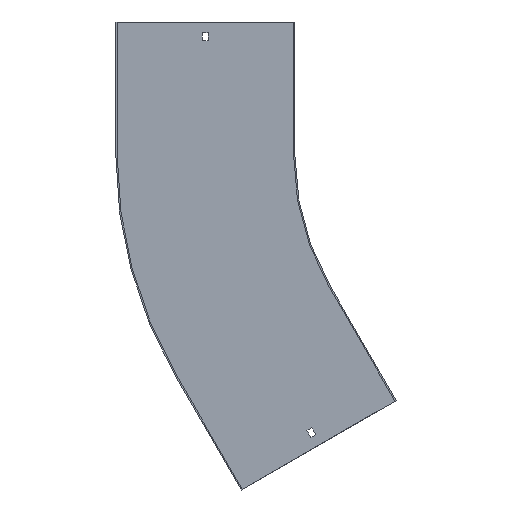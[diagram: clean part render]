
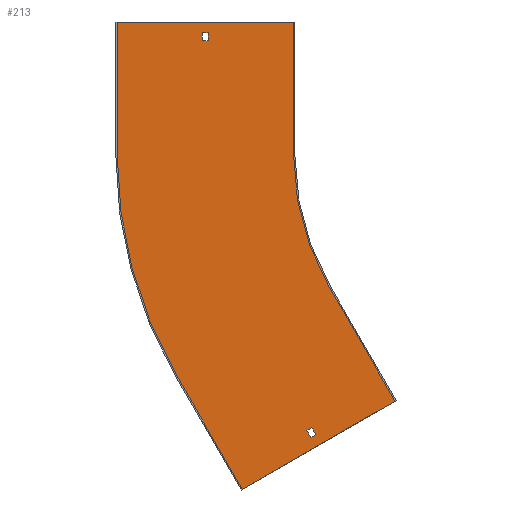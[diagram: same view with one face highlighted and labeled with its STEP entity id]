
A CAD part, front view. The second image highlights one B-rep face of the part: STEP entity #213.
In plain terms, the highlighted planar face has unit normal (0, -1, 0).
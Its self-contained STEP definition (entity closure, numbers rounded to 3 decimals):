
#2 = DIRECTION ( 'NONE',  ( 1., 0., 0. ) ) ;
#12 = ORIENTED_EDGE ( 'NONE', *, *, #810, .F. ) ;
#19 = VERTEX_POINT ( 'NONE', #501 ) ;
#20 = CARTESIAN_POINT ( 'NONE',  ( -279.096, -1.5, -310.092 ) ) ;
#41 = EDGE_CURVE ( 'NONE', #242, #82, #654, .T. ) ;
#43 = CARTESIAN_POINT ( 'NONE',  ( -433.013, -1.5, -250. ) ) ;
#46 = VERTEX_POINT ( 'NONE', #781 ) ;
#48 = EDGE_CURVE ( 'NONE', #82, #584, #228, .T. ) ;
#51 = DIRECTION ( 'NONE',  ( 0., 0., 1. ) ) ;
#53 = VECTOR ( 'NONE', #172, 1000. ) ;
#68 = DIRECTION ( 'NONE',  ( 0.5, 0., -0.866 ) ) ;
#79 = EDGE_CURVE ( 'NONE', #252, #816, #761, .T. ) ;
#82 = VERTEX_POINT ( 'NONE', #736 ) ;
#93 = CARTESIAN_POINT ( 'NONE',  ( -300., -1.5, 150. ) ) ;
#95 = CARTESIAN_POINT ( 'NONE',  ( -349.225, -1.5, -201.625 ) ) ;
#105 = CIRCLE ( 'NONE', #538, 300. ) ;
#107 = ORIENTED_EDGE ( 'NONE', *, *, #610, .F. ) ;
#110 = ORIENTED_EDGE ( 'NONE', *, *, #457, .F. ) ;
#114 = EDGE_LOOP ( 'NONE', ( #237, #154, #107, #436 ) ) ;
#124 = CARTESIAN_POINT ( 'NONE',  ( 0., -1.5, 0. ) ) ;
#140 = CARTESIAN_POINT ( 'NONE',  ( -300., -1.5, 0. ) ) ;
#145 = VECTOR ( 'NONE', #68, 1000. ) ;
#147 = LINE ( 'NONE', #630, #53 ) ;
#152 = FACE_BOUND ( 'NONE', #289, .T. ) ;
#154 = ORIENTED_EDGE ( 'NONE', *, *, #420, .F. ) ;
#158 = DIRECTION ( 'NONE',  ( 0., 0., -1. ) ) ;
#161 = VERTEX_POINT ( 'NONE', #140 ) ;
#163 = VERTEX_POINT ( 'NONE', #732 ) ;
#165 = DIRECTION ( 'NONE',  ( 0., 0., -1. ) ) ;
#168 = VECTOR ( 'NONE', #320, 1000. ) ;
#172 = DIRECTION ( 'NONE',  ( 1., 0., 0. ) ) ;
#174 = VECTOR ( 'NONE', #158, 1000. ) ;
#175 = VECTOR ( 'NONE', #726, 1000. ) ;
#184 = CARTESIAN_POINT ( 'NONE',  ( -259.808, -1.5, -150. ) ) ;
#197 = CARTESIAN_POINT ( 'NONE',  ( 0., -1.5, 129. ) ) ;
#201 = VERTEX_POINT ( 'NONE', #537 ) ;
#213 = ADVANCED_FACE ( 'NONE', ( #421, #611, #152 ), #416, .T. ) ;
#214 = CARTESIAN_POINT ( 'NONE',  ( -300., -1.5, 150. ) ) ;
#227 = ORIENTED_EDGE ( 'NONE', *, *, #41, .F. ) ;
#228 = LINE ( 'NONE', #633, #168 ) ;
#234 = EDGE_CURVE ( 'NONE', #695, #252, #826, .T. ) ;
#237 = ORIENTED_EDGE ( 'NONE', *, *, #234, .F. ) ;
#242 = VERTEX_POINT ( 'NONE', #348 ) ;
#252 = VERTEX_POINT ( 'NONE', #20 ) ;
#271 = EDGE_CURVE ( 'NONE', #627, #19, #147, .T. ) ;
#285 = CARTESIAN_POINT ( 'NONE',  ( -343.596, -1.5, -198.375 ) ) ;
#289 = EDGE_LOOP ( 'NONE', ( #343, #351, #314, #717 ) ) ;
#290 = VECTOR ( 'NONE', #621, 1000. ) ;
#303 = CARTESIAN_POINT ( 'NONE',  ( 0., -1.5, 0. ) ) ;
#305 = EDGE_CURVE ( 'NONE', #19, #201, #497, .T. ) ;
#306 = CIRCLE ( 'NONE', #653, 500. ) ;
#314 = ORIENTED_EDGE ( 'NONE', *, *, #337, .T. ) ;
#320 = DIRECTION ( 'NONE',  ( -0.5, 0., 0.866 ) ) ;
#327 = CARTESIAN_POINT ( 'NONE',  ( -183.509, -1.5, -279.154 ) ) ;
#330 = DIRECTION ( 'NONE',  ( -1., 0., 0. ) ) ;
#337 = EDGE_CURVE ( 'NONE', #201, #163, #456, .T. ) ;
#343 = ORIENTED_EDGE ( 'NONE', *, *, #271, .T. ) ;
#346 = VERTEX_POINT ( 'NONE', #521 ) ;
#348 = CARTESIAN_POINT ( 'NONE',  ( -184.808, -1.5, -279.904 ) ) ;
#351 = ORIENTED_EDGE ( 'NONE', *, *, #305, .T. ) ;
#364 = EDGE_CURVE ( 'NONE', #163, #627, #525, .T. ) ;
#365 = ORIENTED_EDGE ( 'NONE', *, *, #425, .F. ) ;
#366 = DIRECTION ( 'NONE',  ( 0.5, 0., -0.866 ) ) ;
#373 = DIRECTION ( 'NONE',  ( -0.866, 0., -0.5 ) ) ;
#389 = CARTESIAN_POINT ( 'NONE',  ( -500., -1.5, 0. ) ) ;
#393 = EDGE_CURVE ( 'NONE', #427, #242, #517, .T. ) ;
#394 = DIRECTION ( 'NONE',  ( 0., 1., 0. ) ) ;
#416 = PLANE ( 'NONE',  #444 ) ;
#420 = EDGE_CURVE ( 'NONE', #818, #695, #647, .T. ) ;
#421 = FACE_BOUND ( 'NONE', #114, .T. ) ;
#425 = EDGE_CURVE ( 'NONE', #584, #346, #306, .T. ) ;
#427 = VERTEX_POINT ( 'NONE', #184 ) ;
#429 = CARTESIAN_POINT ( 'NONE',  ( 64.5, -1.5, -111.717 ) ) ;
#436 = ORIENTED_EDGE ( 'NONE', *, *, #79, .F. ) ;
#444 = AXIS2_PLACEMENT_3D ( 'NONE', #684, #560, #688 ) ;
#451 = CARTESIAN_POINT ( 'NONE',  ( -259.808, -1.5, -150. ) ) ;
#456 = LINE ( 'NONE', #197, #652 ) ;
#457 = EDGE_CURVE ( 'NONE', #46, #518, #738, .T. ) ;
#465 = DIRECTION ( 'NONE',  ( 0., 0., 1. ) ) ;
#497 = LINE ( 'NONE', #762, #174 ) ;
#498 = VECTOR ( 'NONE', #373, 1000. ) ;
#501 = CARTESIAN_POINT ( 'NONE',  ( -396.75, -1.5, 138. ) ) ;
#517 = LINE ( 'NONE', #451, #145 ) ;
#518 = VERTEX_POINT ( 'NONE', #214 ) ;
#521 = CARTESIAN_POINT ( 'NONE',  ( -500., -1.5, 0. ) ) ;
#525 = LINE ( 'NONE', #731, #720 ) ;
#537 = CARTESIAN_POINT ( 'NONE',  ( -396.75, -1.5, 129. ) ) ;
#538 = AXIS2_PLACEMENT_3D ( 'NONE', #303, #551, #165 ) ;
#551 = DIRECTION ( 'NONE',  ( 0., -1., 0. ) ) ;
#560 = DIRECTION ( 'NONE',  ( 0., -1., 0. ) ) ;
#562 = ORIENTED_EDGE ( 'NONE', *, *, #785, .F. ) ;
#574 = EDGE_LOOP ( 'NONE', ( #110, #12, #365, #827, #227, #730, #675, #562 ) ) ;
#580 = CARTESIAN_POINT ( 'NONE',  ( -274.596, -1.5, -317.887 ) ) ;
#584 = VERTEX_POINT ( 'NONE', #43 ) ;
#610 = EDGE_CURVE ( 'NONE', #816, #818, #624, .T. ) ;
#611 = FACE_OUTER_BOUND ( 'NONE', #574, .T. ) ;
#621 = DIRECTION ( 'NONE',  ( -0.5, 0., 0.866 ) ) ;
#624 = LINE ( 'NONE', #95, #860 ) ;
#625 = VECTOR ( 'NONE', #2, 1000. ) ;
#627 = VERTEX_POINT ( 'NONE', #628 ) ;
#628 = CARTESIAN_POINT ( 'NONE',  ( -403.25, -1.5, 138. ) ) ;
#630 = CARTESIAN_POINT ( 'NONE',  ( 0., -1.5, 138. ) ) ;
#633 = CARTESIAN_POINT ( 'NONE',  ( -358.013, -1.5, -379.904 ) ) ;
#647 = LINE ( 'NONE', #794, #175 ) ;
#652 = VECTOR ( 'NONE', #330, 1000. ) ;
#653 = AXIS2_PLACEMENT_3D ( 'NONE', #124, #394, #661 ) ;
#654 = LINE ( 'NONE', #327, #498 ) ;
#655 = LINE ( 'NONE', #389, #780 ) ;
#661 = DIRECTION ( 'NONE',  ( 0., 0., -1. ) ) ;
#666 = VECTOR ( 'NONE', #712, 1000. ) ;
#675 = ORIENTED_EDGE ( 'NONE', *, *, #693, .F. ) ;
#684 = CARTESIAN_POINT ( 'NONE',  ( 0., -1.5, 0. ) ) ;
#688 = DIRECTION ( 'NONE',  ( 0., 0., -1. ) ) ;
#693 = EDGE_CURVE ( 'NONE', #161, #427, #105, .T. ) ;
#695 = VERTEX_POINT ( 'NONE', #580 ) ;
#697 = DIRECTION ( 'NONE',  ( -0.866, 0., -0.5 ) ) ;
#712 = DIRECTION ( 'NONE',  ( 0., 0., -1. ) ) ;
#717 = ORIENTED_EDGE ( 'NONE', *, *, #364, .T. ) ;
#720 = VECTOR ( 'NONE', #465, 1000. ) ;
#723 = CARTESIAN_POINT ( 'NONE',  ( -280.225, -1.5, -321.137 ) ) ;
#726 = DIRECTION ( 'NONE',  ( 0.866, 0., 0.5 ) ) ;
#730 = ORIENTED_EDGE ( 'NONE', *, *, #393, .F. ) ;
#731 = CARTESIAN_POINT ( 'NONE',  ( -403.25, -1.5, 0. ) ) ;
#732 = CARTESIAN_POINT ( 'NONE',  ( -403.25, -1.5, 129. ) ) ;
#736 = CARTESIAN_POINT ( 'NONE',  ( -358.013, -1.5, -379.904 ) ) ;
#738 = LINE ( 'NONE', #812, #625 ) ;
#761 = LINE ( 'NONE', #429, #790 ) ;
#762 = CARTESIAN_POINT ( 'NONE',  ( -396.75, -1.5, 0. ) ) ;
#771 = LINE ( 'NONE', #93, #666 ) ;
#780 = VECTOR ( 'NONE', #51, 1000. ) ;
#781 = CARTESIAN_POINT ( 'NONE',  ( -500., -1.5, 150. ) ) ;
#785 = EDGE_CURVE ( 'NONE', #518, #161, #771, .T. ) ;
#790 = VECTOR ( 'NONE', #697, 1000. ) ;
#794 = CARTESIAN_POINT ( 'NONE',  ( 69., -1.5, -119.512 ) ) ;
#810 = EDGE_CURVE ( 'NONE', #346, #46, #655, .T. ) ;
#812 = CARTESIAN_POINT ( 'NONE',  ( -501.5, -1.5, 150. ) ) ;
#816 = VERTEX_POINT ( 'NONE', #858 ) ;
#818 = VERTEX_POINT ( 'NONE', #723 ) ;
#826 = LINE ( 'NONE', #285, #290 ) ;
#827 = ORIENTED_EDGE ( 'NONE', *, *, #48, .F. ) ;
#858 = CARTESIAN_POINT ( 'NONE',  ( -284.725, -1.5, -313.342 ) ) ;
#860 = VECTOR ( 'NONE', #366, 1000. ) ;
